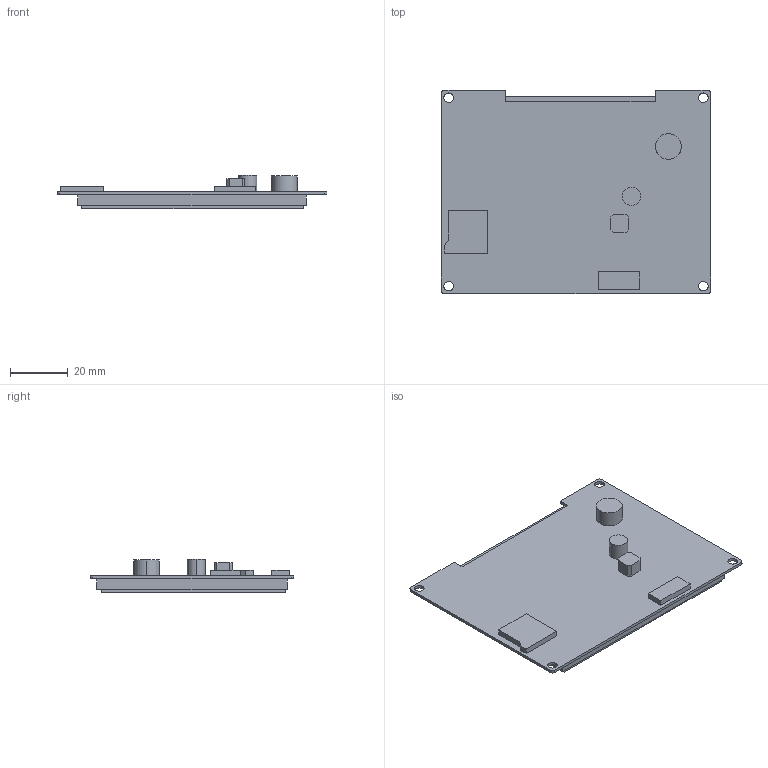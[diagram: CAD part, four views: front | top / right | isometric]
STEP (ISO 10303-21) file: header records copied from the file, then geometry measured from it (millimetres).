
FILE_DESCRIPTION((''),'2;1');
FILE_NAME('3D-DMG32240C035-03WTR','2022-07-06T',('Administrator'),(''),'PRO/ENGINEER BY PARAMETRIC TECHNOLOGY CORPORATION, 2011310','PRO/ENGINEER BY PARAMETRIC TECHNOLOGY CORPORATION, 2011310','');
FILE_SCHEMA(('CONFIG_CONTROL_DESIGN','SHAPE_APPEARANCE_LAYERS_GROUPS'));
Products named in the file (1): 3D-DMG32240C035-03WTR
Bounding box: 92.96 x 70.1 x 11.65 mm (x, y, z)
Volume: 30791.1 mm3; surface area: 23316.9 mm2
Topology: 1 solids, 2 shells, 67 faces, 6870 edges, 11416 vertices
Faces by surface type: plane 51, cylinder 16
Entity records: 57824 total; most frequent: DIRECTION 9132, CARTESIAN_POINT 7050, CURVE_STYLE 6702, PRESENTATION_STYLE_ASSIGNMENT 6702, STYLED_ITEM 6702, TRIMMED_CURVE 6701, VECTOR 4744, LINE 4744
